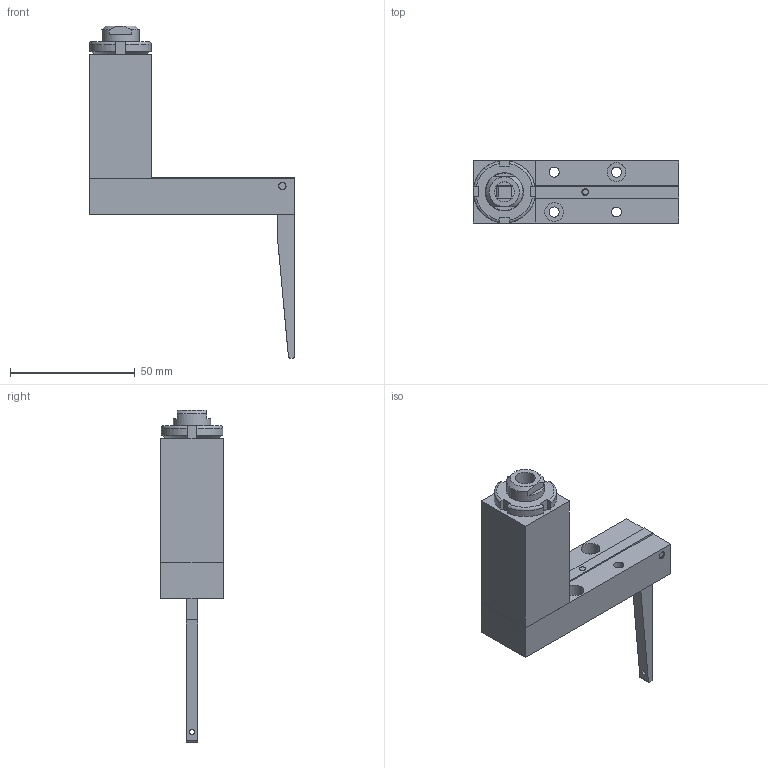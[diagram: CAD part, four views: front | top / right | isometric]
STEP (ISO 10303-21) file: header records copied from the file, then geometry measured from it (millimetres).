
FILE_DESCRIPTION(/* description */ (''),/* implementation_level */ '2;1');
FILE_NAME(/* name */ 'C:\Local Work Area\Progetti\AP\CALIBRI\18X.00 BILANCINO H60\186.00.stp',/* time_stamp */ '2015-05-07T16:13:54+02:00',/* author */ ('CAD5'),/* organization */ (''),/* preprocessor_version */ 'ST-DEVELOPER v15.2',/* originating_system */ 'Autodesk Inventor 2014',/* authorisation */ '0 mm^3');
FILE_SCHEMA (('AUTOMOTIVE_DESIGN { 1 0 10303 214 3 1 1 }'));
Length unit declared in the file: millimetre
Products named in the file (9): 182.02; 182.03; 03.56; 186.01; Ghiera SKF M15x1 KM_2; ISO 2338 - 3  x 24 - A; UNI 5931 - M 4 x  16 - 0,7 - 13,9; D10320; 18x.00
Bounding box: 82.5 x 25 x 133.25 mm (x, y, z)
Volume: 58361.9 mm3; surface area: 26793.4 mm2
Topology: 11 solids, 11 shells, 194 faces, 462 edges, 299 vertices
Faces by surface type: plane 98, cylinder 54, cone 24, torus 18
Full cylindrical faces by diameter (mm): 2.013 x1, 2.3 x1, 2.7 x1, 3 x6, 3.242 x4, 4 x6, 4.1 x6, 7 x4, 7.5 x6, 8 x1, 9 x1, 13.917 x1, 15 x2
Entity records: 4402 total; most frequent: CARTESIAN_POINT 902, DIRECTION 719, ORIENTED_EDGE 590, EDGE_CURVE 295, AXIS2_PLACEMENT_3D 293, EDGE_LOOP 241, VERTEX_POINT 222, ADVANCED_FACE 149
